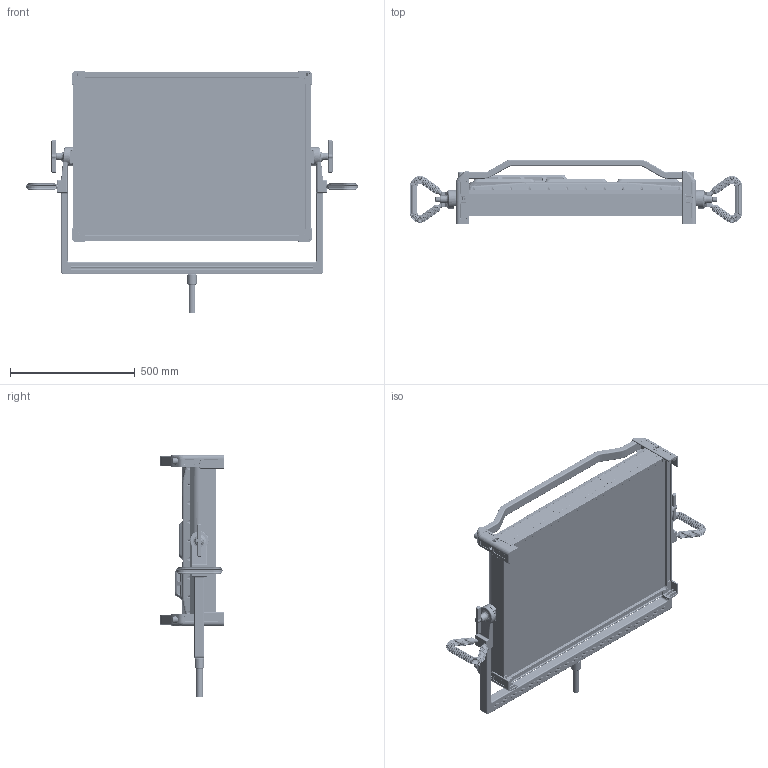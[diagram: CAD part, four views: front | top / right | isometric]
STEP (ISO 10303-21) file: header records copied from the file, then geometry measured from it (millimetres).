
FILE_DESCRIPTION(/* description */ ('STEP AP242','CAx-IF Rec.Pracs.---Representation and Presentation of Product Manufacturing Information (PMI)---4.0---2014-10-13','CAx-IF Rec.Pracs.---3D Tessellated Geometry---0.4---2014-09-14','2;1'),/* implementation_level */ '2;1');
FILE_NAME(/* name */ '67a2f8b54c50c75c76a9ba16',/* time_stamp */ '2025-02-05T05:36:03Z',/* author */ (''),/* organization */ (''),/* preprocessor_version */ 'ST-DEVELOPER v20',/* originating_system */ 'ONSHAPE BY PTC INC, 1.193',/* authorisation */ ' ');
FILE_SCHEMA (('AP242_MANAGED_MODEL_BASED_3D_ENGINEERING_MIM_LF { 1 0 10303 442 1 1 4 }'));
Products named in the file (3): V24_Single_File_With_Separate_Yoke; CREAMSOURCE_VORTEX24_YOKE
Assembly tree (2 placements, depth 2):
  V24_Single_File_With_Separate_Yoke
    CREAMSOURCE_VORTEX24_YOKE
    V24_Single_File_With_Separate_Yoke
Bounding box: 1331.8 x 258 x 971.1 mm (x, y, z)
Volume: 76479938.2 mm3; surface area: 4740897.6 mm2
Topology: 2 solids, 117 shells, 12429 faces, 31275 edges, 19067 vertices
Faces by surface type: plane 4446, cylinder 4336, bspline 1969, torus 1019, cone 467, sphere 192
Full cylindrical faces by diameter (mm): 2.5 x38, 2.571 x8, 3 x4, 3.3 x62, 3.4 x32, 4 x4, 4.22 x44, 5 x20, 6 x16, 6.6 x32, 7 x8, 7.938 x8, 8 x8, 10 x2, 10.3 x1, 11.25 x8, 12 x4, 13.763 x1, 15 x4, 16 x12, 16.4 x4, 16.5 x4, 17 x4, 20 x4, 22.585 x1, 28 x1, 31 x2, 38 x1, 75 x2
Entity records: 530974 total; most frequent: CARTESIAN_POINT 228703, ORIENTED_EDGE 60156, DIRECTION 56178, EDGE_CURVE 30078, AXIS2_PLACEMENT_3D 20931, VERTEX_POINT 18765, LINE 14316, VECTOR 14316
